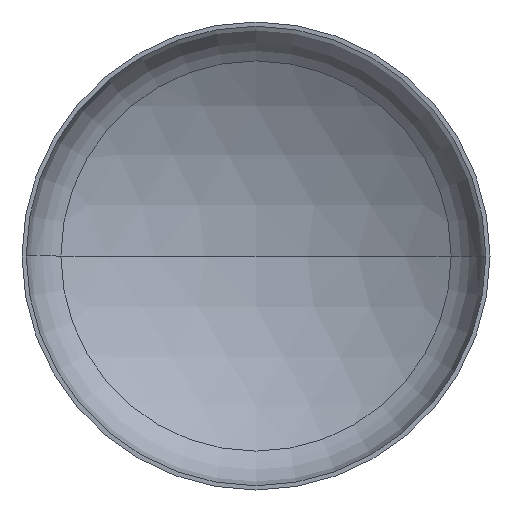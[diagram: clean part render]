
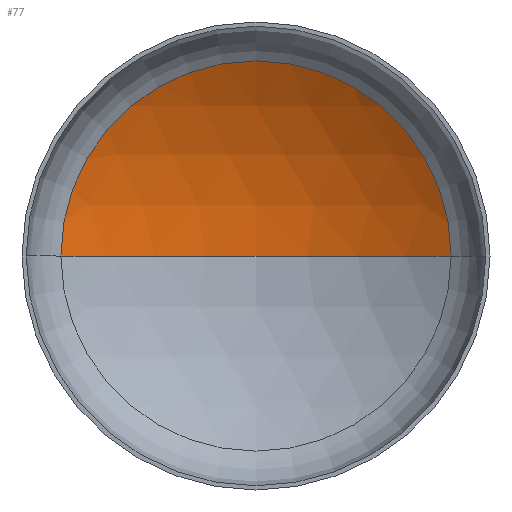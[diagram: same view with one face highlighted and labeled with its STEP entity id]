
A CAD part, front view. The second image highlights one B-rep face of the part: STEP entity #77.
In plain terms, the highlighted spherical face has radius 5600 mm.
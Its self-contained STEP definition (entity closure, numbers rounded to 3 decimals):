
#33 = AXIS2_PLACEMENT_3D ( 'NONE', #212, #334, #328 ) ;
#35 = ORIENTED_EDGE ( 'NONE', *, *, #353, .T. ) ;
#39 = ORIENTED_EDGE ( 'NONE', *, *, #94, .T. ) ;
#53 = VERTEX_POINT ( 'NONE', #256 ) ;
#76 = AXIS2_PLACEMENT_3D ( 'NONE', #338, #347, #346 ) ;
#77 = ADVANCED_FACE ( 'NONE', ( #113 ), #260, .F. ) ;
#79 = ORIENTED_EDGE ( 'NONE', *, *, #128, .F. ) ;
#88 = VERTEX_POINT ( 'NONE', #326 ) ;
#92 = EDGE_LOOP ( 'NONE', ( #79, #39, #35 ) ) ;
#93 = CIRCLE ( 'NONE', #76, 5600. ) ;
#94 = EDGE_CURVE ( 'NONE', #281, #53, #342, .T. ) ;
#105 = AXIS2_PLACEMENT_3D ( 'NONE', #152, #138, #139 ) ;
#113 = FACE_OUTER_BOUND ( 'NONE', #92, .T. ) ;
#128 = EDGE_CURVE ( 'NONE', #281, #88, #93, .T. ) ;
#138 = DIRECTION ( 'NONE',  ( 0., -1., 0. ) ) ;
#139 = DIRECTION ( 'NONE',  ( 1., 0., 0. ) ) ;
#152 = CARTESIAN_POINT ( 'NONE',  ( 0., 1041.684, 0. ) ) ;
#212 = CARTESIAN_POINT ( 'NONE',  ( 0., -3737.417, 0. ) ) ;
#214 = CARTESIAN_POINT ( 'NONE',  ( 0., 1862.583, 0. ) ) ;
#256 = CARTESIAN_POINT ( 'NONE',  ( 2918.938, 1041.684, 0. ) ) ;
#260 = SPHERICAL_SURFACE ( 'NONE', #33, 5600. ) ;
#281 = VERTEX_POINT ( 'NONE', #214 ) ;
#314 = DIRECTION ( 'NONE',  ( -1., 0., 0. ) ) ;
#318 = DIRECTION ( 'NONE',  ( 0., 0., -1. ) ) ;
#321 = CARTESIAN_POINT ( 'NONE',  ( 0., -3737.417, 0. ) ) ;
#326 = CARTESIAN_POINT ( 'NONE',  ( -2918.938, 1041.684, 0. ) ) ;
#328 = DIRECTION ( 'NONE',  ( -1., 0., 0. ) ) ;
#334 = DIRECTION ( 'NONE',  ( 0., 0., -1. ) ) ;
#338 = CARTESIAN_POINT ( 'NONE',  ( 0., -3737.417, 0. ) ) ;
#342 = CIRCLE ( 'NONE', #407, 5600. ) ;
#346 = DIRECTION ( 'NONE',  ( 1., 0., 0. ) ) ;
#347 = DIRECTION ( 'NONE',  ( 0., 0., 1. ) ) ;
#353 = EDGE_CURVE ( 'NONE', #53, #88, #403, .T. ) ;
#403 = CIRCLE ( 'NONE', #105, 2918.938 ) ;
#407 = AXIS2_PLACEMENT_3D ( 'NONE', #321, #318, #314 ) ;
